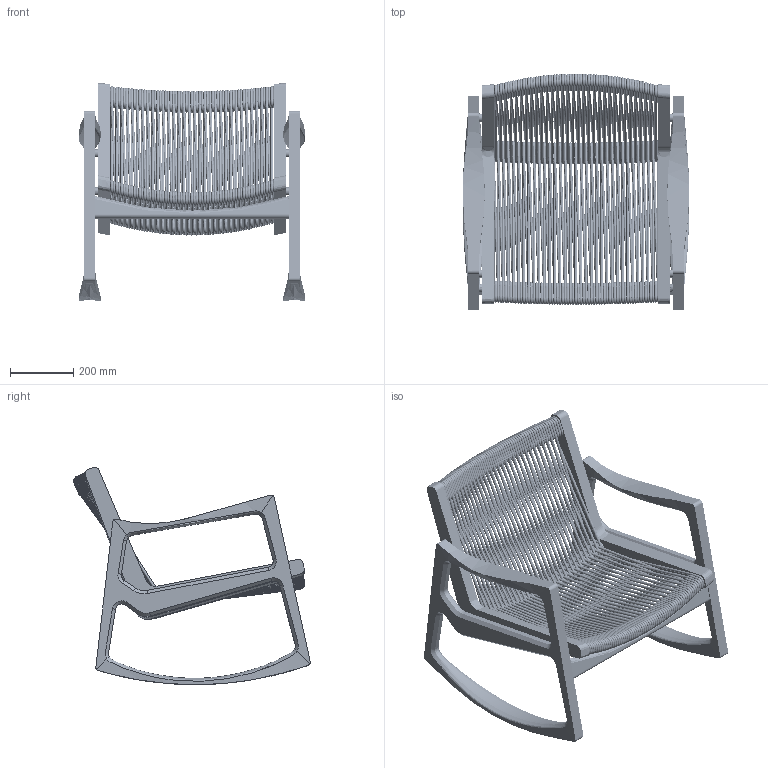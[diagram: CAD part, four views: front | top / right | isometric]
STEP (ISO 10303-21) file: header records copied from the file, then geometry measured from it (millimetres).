
FILE_DESCRIPTION(/* description */ (''),/* implementation_level */ '2;1');
FILE_NAME(/* name */ 'JA_Euvira-Rocking-Chair_3D_20230808',/* time_stamp */ '2023-08-09T12:56:29+02:00',/* author */ (''),/* organization */ (''),/* preprocessor_version */ 'ST-DEVELOPER v16.5',/* originating_system */ 'Rhino 7.31',/* authorisation */ '');
FILE_SCHEMA (('CONFIG_CONTROL_DESIGN'));
Products named in the file (1): Document
Bounding box: 715 x 745.73 x 685.04 mm (x, y, z)
Volume: 4623404.2 mm3; surface area: 3658729.1 mm2
Topology: 36 solids, 201 shells, 3012 faces, 6472 edges, 3428 vertices
Faces by surface type: cylinder 1485, bspline 1452, plane 75
Entity records: 267653 total; most frequent: CARTESIAN_POINT 230800, ORIENTED_EDGE 12232, EDGE_CURVE 6472, VERTEX_POINT 3426, EDGE_LOOP 3016, ADVANCED_FACE 3012, FACE_OUTER_BOUND 3012, DIRECTION 1568
